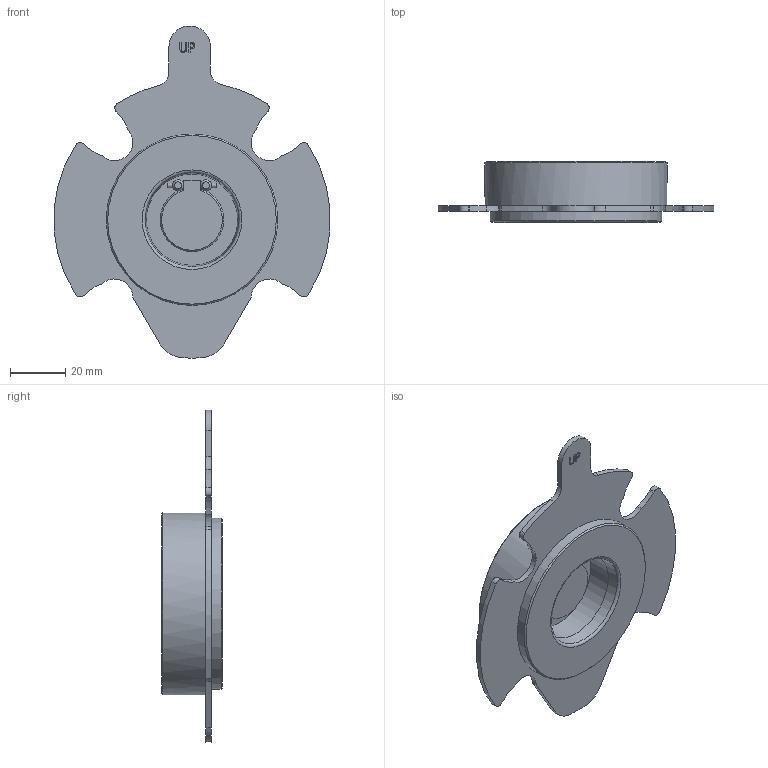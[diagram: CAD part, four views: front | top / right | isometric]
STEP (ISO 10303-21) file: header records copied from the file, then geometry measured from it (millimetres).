
FILE_DESCRIPTION(/* description */ (''),/* implementation_level */ '2;1');
FILE_NAME(/* name */ 'H:\nakaot\Inventor\COS\ckf5m-025-wafer-00.stp',/* time_stamp */ '2015-05-14T10:23:04+09:00',/* author */ ('nakaot'),/* organization */ (''),/* preprocessor_version */ 'ST-DEVELOPER v15.6',/* originating_system */ 'Autodesk Inventor 2015',/* authorisation */ '');
FILE_SCHEMA (('CONFIG_CONTROL_DESIGN'));
Length unit declared in the file: millimetre
Products named in the file (1): ckf5m-025-wafer-00
Bounding box: 99.67 x 22 x 120.03 mm (x, y, z)
Volume: 67238.3 mm3; surface area: 20939.9 mm2
Topology: 1 solids, 1 shells, 111 faces, 287 edges, 189 vertices
Faces by surface type: plane 48, cylinder 39, bspline 16, cone 7, torus 1
Full cylindrical faces by diameter (mm): 1.6 x4, 2.6 x2, 4 x2, 19 x1, 33 x1, 62 x1, 66 x1
Entity records: 3491 total; most frequent: CARTESIAN_POINT 937, ORIENTED_EDGE 510, DIRECTION 502, EDGE_CURVE 255, AXIS2_PLACEMENT_3D 189, VERTEX_POINT 177, EDGE_LOOP 146, LINE 124
